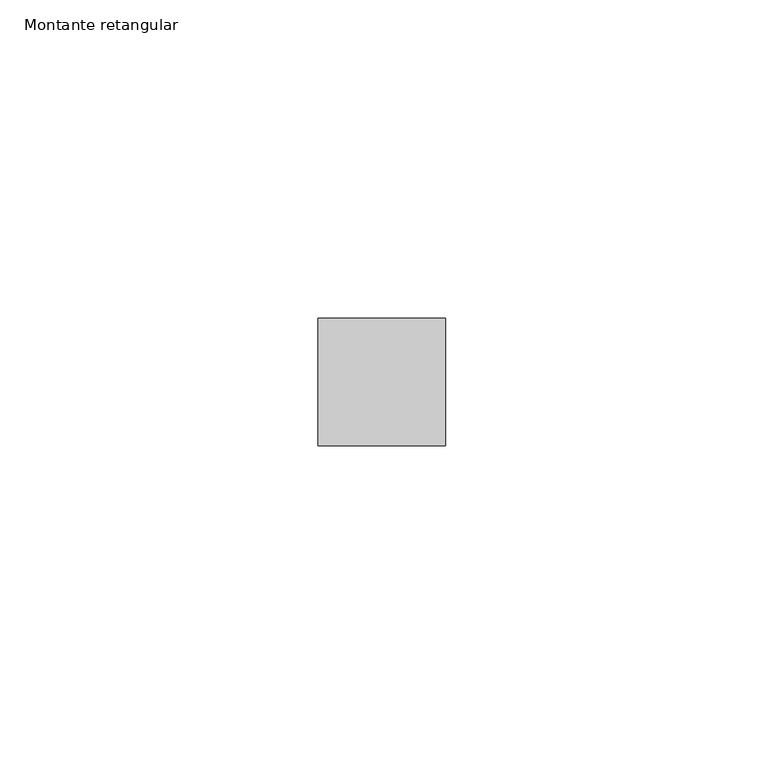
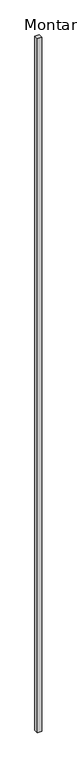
"""IFC4 building model written with IfcOpenShell, lengths in millimetres: member geometry, Montante retangular : ARQ_RIPAS."""

from ifc_helpers import new_model, si_unit, frame, origin, place, context, project, spatial, polyline, outline, extrude, source, transform, mapped, element, save


def montante_retangular_39d8b0db(model_context):
    return source(origin(), model_context, "Body", "SweptSolid", [
        extrude(outline(polyline([(10.0, 0.0), (10.0, -20.0), (-10.0, -20.0), (-10.0, 0.0), (10.0, 0.0)])), frame((0.0, 0.0, -3310.0), z_axis=(0.0, 0.0, 1.0), x_axis=(1.0, 0.0, 0.0)), (0.0, 0.0, 1.0), 3310.0),
    ])


if __name__ == "__main__":
    model = new_model("IFC4")
    model_context = context("Model", 3, world=origin())
    ifc_project = project(units=[si_unit("LENGTHUNIT", "METRE", prefix="MILLI")], contexts=[model_context])
    site = spatial("IfcSite", under=ifc_project)
    building = spatial("IfcBuilding", under=site)
    placement = place(None, origin())
    montante_retangular_shape = montante_retangular_39d8b0db(model_context)
    element("IfcMember", 1, ObjectType="Montante retangular : ARQ_RIPAS", at=placement, inside=building, context=model_context, shape_type="MappedRepresentation", body=[
        mapped(montante_retangular_shape, transform((0.0, 0.0, 0.0), x_axis=(1.0, 0.0, 0.0), y_axis=(0.0, 1.0, 0.0), z_axis=(0.0, 0.0, 1.0))),
    ])
    save(model, "model.ifc")
